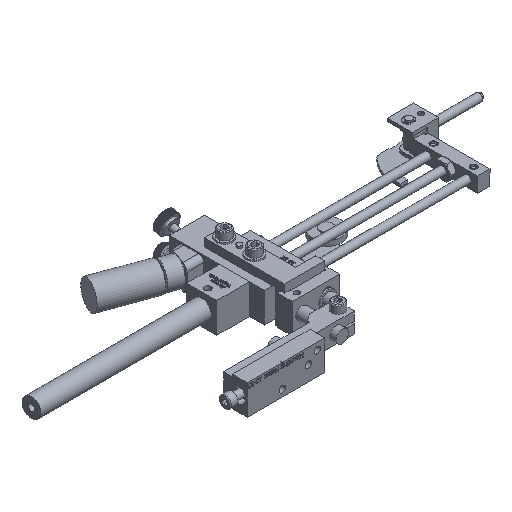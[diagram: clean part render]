
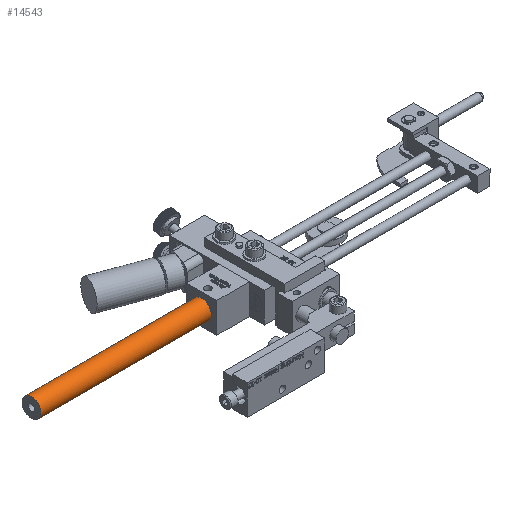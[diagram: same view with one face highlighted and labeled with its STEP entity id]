
A CAD part, isometric view. The second image highlights one B-rep face of the part: STEP entity #14543.
In plain terms, the highlighted cylindrical face has radius 5.969 mm (diameter 11.938 mm), a full revolution.
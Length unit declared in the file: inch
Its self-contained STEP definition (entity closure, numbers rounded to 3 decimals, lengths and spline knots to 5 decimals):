
#14516=CARTESIAN_POINT('',(-1.4995,-2.2991,0.367));
#14517=DIRECTION('',(-1.0,0.,0.));
#14518=DIRECTION('',(0.0,0.0,1.0));
#14519=AXIS2_PLACEMENT_3D('',#14516,#14517,#14518);
#14520=CYLINDRICAL_SURFACE('',#14519,0.235);
#14521=CARTESIAN_POINT('',(-5.7495,-2.2991,0.132));
#14522=VERTEX_POINT('',#14521);
#14523=CARTESIAN_POINT('',(-5.7495,-2.2991,0.367));
#14524=DIRECTION('',(1.0,0.0,0.0));
#14525=DIRECTION('',(0.0,0.0,1.0));
#14526=AXIS2_PLACEMENT_3D('',#14523,#14524,#14525);
#14527=CIRCLE('',#14526,0.235);
#14528=EDGE_CURVE('',#14522,#14522,#14527,.T.);
#14529=ORIENTED_EDGE('',*,*,#14528,.T.);
#14530=EDGE_LOOP('',(#14529));
#14531=FACE_OUTER_BOUND('',#14530,.T.);
#14532=CARTESIAN_POINT('',(-1.4995,-2.2991,0.132));
#14533=VERTEX_POINT('',#14532);
#14534=CARTESIAN_POINT('',(-1.4995,-2.2991,0.367));
#14535=DIRECTION('',(1.0,0.0,0.0));
#14536=DIRECTION('',(0.0,0.0,1.0));
#14537=AXIS2_PLACEMENT_3D('',#14534,#14535,#14536);
#14538=CIRCLE('',#14537,0.235);
#14539=EDGE_CURVE('',#14533,#14533,#14538,.T.);
#14540=ORIENTED_EDGE('',*,*,#14539,.F.);
#14541=EDGE_LOOP('',(#14540));
#14542=FACE_BOUND('',#14541,.T.);
#14543=ADVANCED_FACE('',(#14531,#14542),#14520,.T.);
